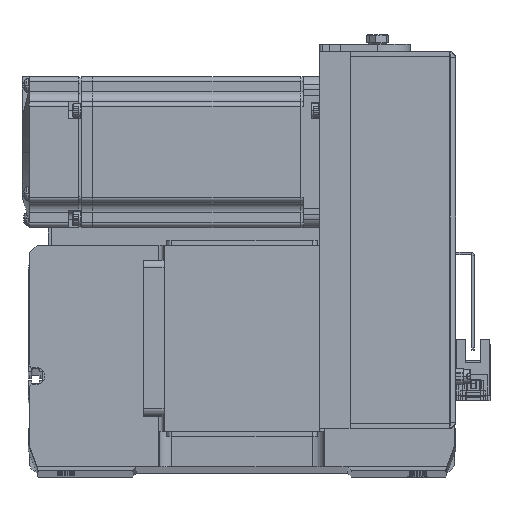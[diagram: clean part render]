
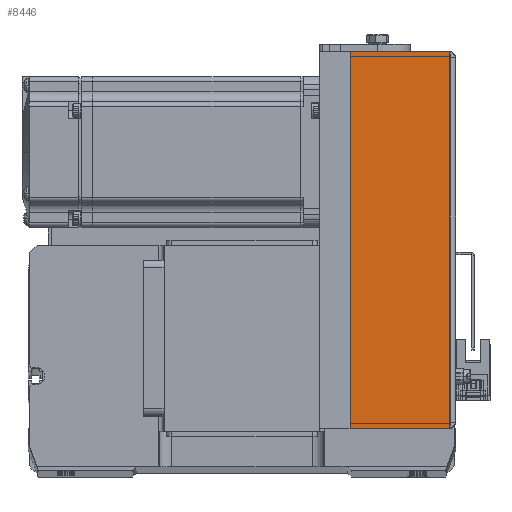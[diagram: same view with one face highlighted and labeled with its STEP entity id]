
A CAD part, top view. The second image highlights one B-rep face of the part: STEP entity #8446.
In plain terms, the highlighted planar face has unit normal (0, 0, 1) as drawn and (0, -1, 0) by its records, which use the part's own axes.
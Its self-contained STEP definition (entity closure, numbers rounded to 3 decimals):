
#1492 = VECTOR ( 'NONE', #29112, 1000. ) ;
#2993 = ORIENTED_EDGE ( 'NONE', *, *, #17504, .T. ) ;
#4098 = LINE ( 'NONE', #6990, #25141 ) ;
#4463 = CARTESIAN_POINT ( 'NONE',  ( 75., -36., 51.5 ) ) ;
#4506 = LINE ( 'NONE', #39061, #34230 ) ;
#4632 = CARTESIAN_POINT ( 'NONE',  ( -75., -36., 12. ) ) ;
#6755 = CARTESIAN_POINT ( 'NONE',  ( -75., -36., 51.5 ) ) ;
#6990 = CARTESIAN_POINT ( 'NONE',  ( -75., -36., 51.5 ) ) ;
#7585 = DIRECTION ( 'NONE',  ( 0., 0., -1. ) ) ;
#8082 = LINE ( 'NONE', #20616, #29306 ) ;
#8446 = ADVANCED_FACE ( 'NONE', ( #18740 ), #21805, .F. ) ;
#9183 = ORIENTED_EDGE ( 'NONE', *, *, #16433, .T. ) ;
#9266 = DIRECTION ( 'NONE',  ( 0., 1., 0. ) ) ;
#10960 = VERTEX_POINT ( 'NONE', #6755 ) ;
#11018 = AXIS2_PLACEMENT_3D ( 'NONE', #15660, #9266, #25116 ) ;
#14164 = DIRECTION ( 'NONE',  ( 1., 0., 0. ) ) ;
#15660 = CARTESIAN_POINT ( 'NONE',  ( 0., -36., 52. ) ) ;
#16433 = EDGE_CURVE ( 'NONE', #31813, #28921, #4506, .T. ) ;
#17504 = EDGE_CURVE ( 'NONE', #10960, #31813, #4098, .T. ) ;
#18193 = EDGE_CURVE ( 'NONE', #10960, #36129, #38362, .T. ) ;
#18740 = FACE_OUTER_BOUND ( 'NONE', #34795, .T. ) ;
#20616 = CARTESIAN_POINT ( 'NONE',  ( 75., -36., 51.5 ) ) ;
#21279 = CARTESIAN_POINT ( 'NONE',  ( 75., -36., 12. ) ) ;
#21805 = PLANE ( 'NONE',  #11018 ) ;
#22915 = CARTESIAN_POINT ( 'NONE',  ( 75., -36., 51.5 ) ) ;
#25116 = DIRECTION ( 'NONE',  ( 0., 0., -1. ) ) ;
#25141 = VECTOR ( 'NONE', #7585, 1000. ) ;
#25169 = ORIENTED_EDGE ( 'NONE', *, *, #18193, .F. ) ;
#25334 = ORIENTED_EDGE ( 'NONE', *, *, #27715, .F. ) ;
#27715 = EDGE_CURVE ( 'NONE', #36129, #28921, #8082, .T. ) ;
#28921 = VERTEX_POINT ( 'NONE', #21279 ) ;
#29112 = DIRECTION ( 'NONE',  ( 1., 0., 0. ) ) ;
#29306 = VECTOR ( 'NONE', #39749, 1000. ) ;
#31813 = VERTEX_POINT ( 'NONE', #4632 ) ;
#34230 = VECTOR ( 'NONE', #14164, 1000. ) ;
#34795 = EDGE_LOOP ( 'NONE', ( #25169, #2993, #9183, #25334 ) ) ;
#36129 = VERTEX_POINT ( 'NONE', #4463 ) ;
#38362 = LINE ( 'NONE', #22915, #1492 ) ;
#39061 = CARTESIAN_POINT ( 'NONE',  ( 0., -36., 12. ) ) ;
#39749 = DIRECTION ( 'NONE',  ( 0., 0., -1. ) ) ;
